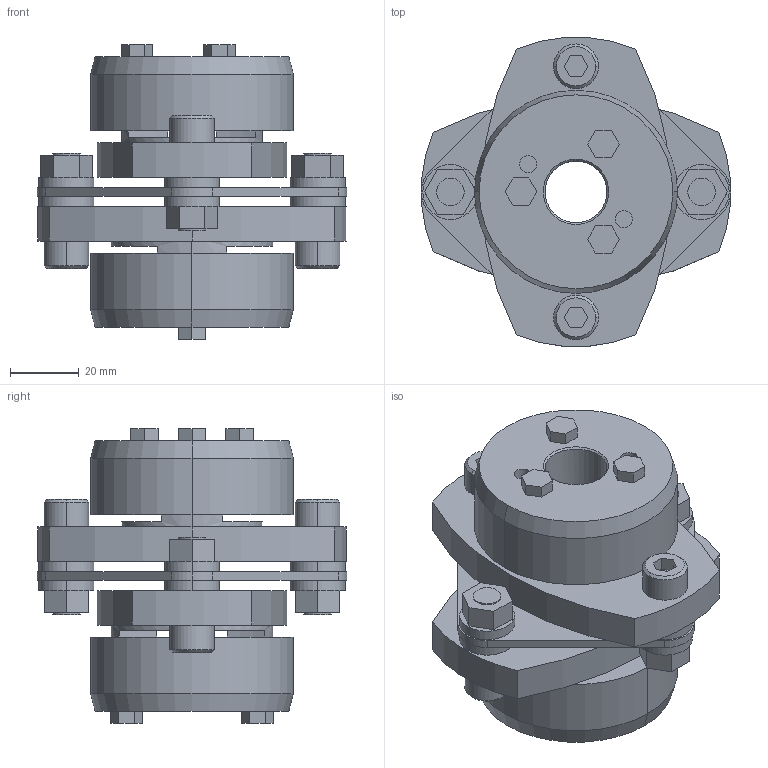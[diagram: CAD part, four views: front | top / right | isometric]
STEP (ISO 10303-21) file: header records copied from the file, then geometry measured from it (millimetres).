
FILE_DESCRIPTION((''),'2;1');
FILE_NAME('LCS-90T7-18×24.stp','2015-11-01T20:12:39',(''),(''),'AutoCAD STEP 2000i','AutoCAD 2000i',', , ');
FILE_SCHEMA(('CONFIG_CONTROL_DESIGN'));
Length unit declared in the file: millimetre
Products named in the file (8): LCS-90T7-19×25; 忣兜1; LC90T7-T025; LC90T7-T019-1; LC90T7-T019; LC90-B019-1; LC90-B019; LCS90-ITA
Assembly tree (7 placements, depth 2):
  LCS-90T7-19×25
    忣兜1
    LC90T7-T025
    LC90T7-T019-1
    LC90T7-T019
    LC90-B019-1
    LC90-B019
    LCS90-ITA
Bounding box: 90 x 89.94 x 85.5 mm (x, y, z)
Volume: 204545.7 mm3; surface area: 52184.9 mm2
Topology: 1 solids, 1 shells, 225 faces, 550 edges, 360 vertices
Faces by surface type: plane 125, cylinder 80, cone 20
Entity records: 6869 total; most frequent: DIRECTION 1212, CARTESIAN_POINT 1143, ORIENTED_EDGE 1100, EDGE_CURVE 550, AXIS2_PLACEMENT_3D 429, VERTEX_POINT 360, VECTOR 354, LINE 354
